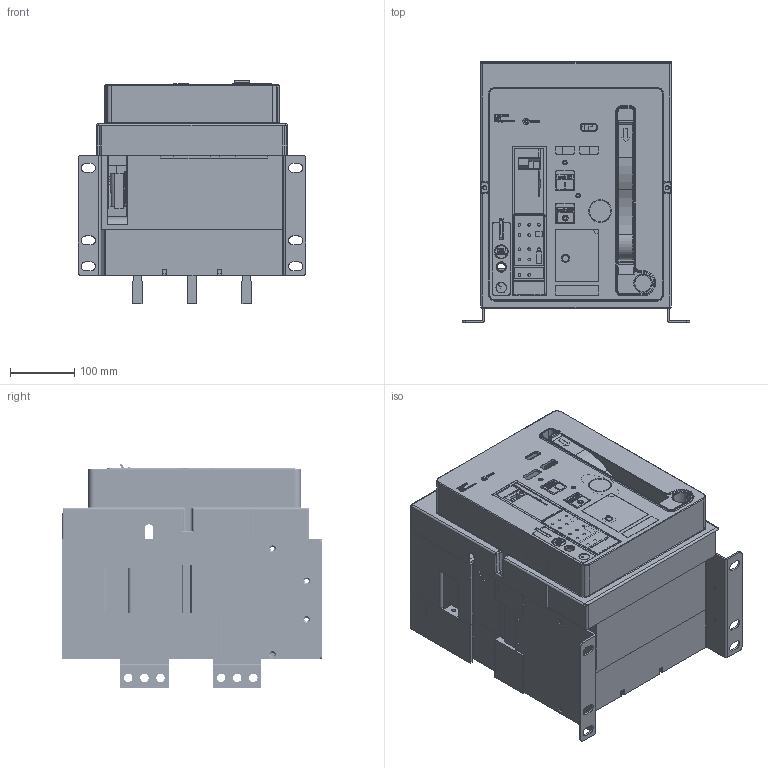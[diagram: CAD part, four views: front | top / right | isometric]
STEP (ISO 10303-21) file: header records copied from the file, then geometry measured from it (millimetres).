
FILE_DESCRIPTION((''),'2;1');
FILE_NAME('HG_05_A203V_FIX_ASM_ASM_ASM','2019-03-29T',('HHI'),(''),'PRO/ENGINEER BY PARAMETRIC TECHNOLOGY CORPORATION, 2012453','PRO/ENGINEER BY PARAMETRIC TECHNOLOGY CORPORATION, 2012453','');
FILE_SCHEMA(('CONFIG_CONTROL_DESIGN'));
Products named in the file (25): PRT0314; PRT0315; PRT0316; PRT0317; PRT0318; PRT0319; PRT0320; ASM0017_ASM_ASM; PRT0321; PRT0322; PRT0323; ASM0018_ASM_ASM; PRT0324; PRT0325; ASM0016_ASM_ASM; PRT0326; PRT0327; ASM0015_ASM_ASM; TERMINAL_A20V_1; A203V_FIX_ASM_2_ASM_ASM; PRT0328; PRT0329; PRT0330; ASM0073_ASM; HG_05_A203V_FIX_ASM_ASM_ASM
Assembly tree (31 placements, depth 7):
  HG_05_A203V_FIX_ASM_ASM_ASM
    ASM0073_ASM
      A203V_FIX_ASM_2_ASM_ASM
        ASM0015_ASM_ASM
          PRT0314
          PRT0315
          PRT0316  x3
          ASM0016_ASM_ASM
            ASM0017_ASM_ASM
              PRT0317
              PRT0318
              PRT0319
              PRT0320
            ASM0018_ASM_ASM
              PRT0321
              PRT0322
              PRT0323
            PRT0324
            PRT0325
          PRT0326
          PRT0327
        TERMINAL_A20V_1  x6
      PRT0328
      PRT0329
      PRT0330
Bounding box: 353.4 x 404.4 x 346.23 mm (x, y, z)
Volume: 6542509.1 mm3; surface area: 2411808.8 mm2
Topology: 25 solids, 48 shells, 6832 faces, 19351 edges, 12731 vertices
Faces by surface type: plane 4306, cylinder 1872, torus 245, extrusion 173, cone 106, sphere 70, bspline 60
Entity records: 220693 total; most frequent: CARTESIAN_POINT 46203, ORIENTED_EDGE 37088, DIRECTION 35066, EDGE_CURVE 18687, VECTOR 13634, LINE 13461, VERTEX_POINT 12335, AXIS2_PLACEMENT_3D 10716
